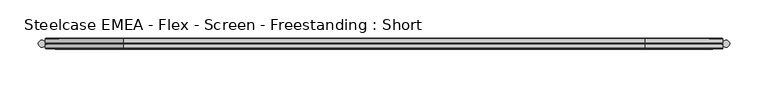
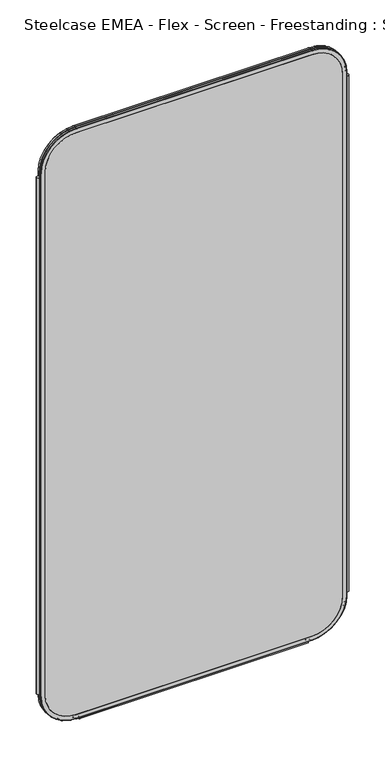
"""IFC4 building model written with IfcOpenShell, lengths in millimetres: furniture geometry, Steelcase EMEA - Flex - Screen - Freestanding : Short."""

from ifc_helpers import new_model, si_unit, point, frame, frame_2d, origin, place, context, project, spatial, polyline, circle_curve, ellipse_curve, trimmed, segment, composite_curve, outline, extrude, source, transform, mapped, element, save
from ifc_brep_helpers import plane_surface, cylinder_surface, revolved_surface, advanced_brep


def steelcase_emea_flex_screen_freestanding_short_9034ac6e(model_context):
    return source(origin(), model_context, "Body", "SolidModel", [
        extrude(outline(composite_curve([segment(trimmed(circle_curve(frame_2d((4.5307839, 0.0)), 4.572), [point((-0.0412161, 0.0))], [point((9.1027839, 0.0))], False, "CARTESIAN"), True, "CONTINUOUS"), segment(trimmed(circle_curve(frame_2d((4.5307839, 0.0)), 4.572), [point((9.1027839, 0.0))], [point((-0.0412161, 0.0))], False, "CARTESIAN"), True, "CONTINUOUS")], self_intersect=False)), frame((0.0, 0.0, 115.57), z_axis=(0.0, 0.0, 1.0), x_axis=(1.0, 0.0, 0.0)), (0.0, 0.0, 1.0), 1568.958),
        extrude(outline(composite_curve([segment(trimmed(circle_curve(frame_2d((895.4692161, 0.0)), 4.572), [point((890.8972161, 0.0))], [point((900.0412161, 0.0))], False, "CARTESIAN"), True, "CONTINUOUS"), segment(trimmed(circle_curve(frame_2d((895.4692161, 0.0)), 4.572), [point((900.0412161, 0.0))], [point((890.8972161, 0.0))], False, "CARTESIAN"), True, "CONTINUOUS")], self_intersect=False)), frame((0.0, 0.0, 115.57), z_axis=(0.0, 0.0, 1.0), x_axis=(1.0, 0.0, 0.0)), (0.0, 0.0, 1.0), 1568.958),
        extrude(outline(composite_curve([segment(trimmed(circle_curve(frame_2d((3.5, 2.4751953)), 2.5), [point((3.5, 4.9751953))], [point((1.4656663, 1.0220998))], False, "CARTESIAN"), True, "CONTINUOUS"), segment(trimmed(circle_curve(frame_2d((0.0, -0.0248047)), 1.8011626), [point((1.4656663, 1.0220998))], [point((-1.4656663, 1.0220998))], True, "CARTESIAN"), True, "CONTINUOUS"), segment(trimmed(circle_curve(frame_2d((-3.5, 2.4751953)), 2.5), [point((-1.4656663, 1.0220998))], [point((-3.5, 4.9751953))], False, "CARTESIAN"), True, "CONTINUOUS"), segment(trimmed(circle_curve(frame_2d((-3.5, 4.4751953)), 0.5), [point((-3.5, 4.9751953))], [point((-3.5, 3.9751953))], False, "CARTESIAN"), True, "CONTINUOUS"), segment(trimmed(circle_curve(frame_2d((-3.5, 2.4751953)), 1.5), [point((-3.5, 3.9751953))], [point((-2.3025096, 1.5718589))], True, "CARTESIAN"), True, "CONTINUOUS"), segment(trimmed(circle_curve(frame_2d((-10.3325937, 7.629417)), 10.0586411), [point((-2.3025096, 1.5718589))], [point((-0.714976, 4.6836248))], True, "CARTESIAN"), True, "CONTINUOUS"), segment(trimmed(circle_curve(frame_2d((0.0, 4.4646339)), 0.7477618), [point((-0.714976, 4.6836248))], [point((0.714976, 4.6836248))], False, "CARTESIAN"), True, "CONTINUOUS"), segment(trimmed(circle_curve(frame_2d((10.3325937, 7.629417)), 10.0586411), [point((0.714976, 4.6836248))], [point((2.3025096, 1.5718589))], True, "CARTESIAN"), True, "CONTINUOUS"), segment(trimmed(circle_curve(frame_2d((3.5, 2.4751953)), 1.5), [point((2.3025096, 1.5718589))], [point((3.5, 3.9751953))], True, "CARTESIAN"), True, "CONTINUOUS"), segment(trimmed(circle_curve(frame_2d((3.5, 4.4751953)), 0.5), [point((3.5, 3.9751953))], [point((3.5, 4.9751953))], False, "CARTESIAN"), True, "CONTINUOUS")], self_intersect=False)), frame((120.0, 0.0, 0.0), z_axis=(1.0, 0.0, 0.0), x_axis=(0.0, 1.0, 0.0)), (0.0, 0.0, 1.0), 660.0),
        advanced_brep(
        [(9.9273521, 0.0, 1698.498), (9.9273521, 0.0, 106.5996464), (110.7653521, 0.0, 5.7616464), (789.2594661, 0.0, 5.7616464), (890.0974661, 0.0, 106.5996464), (890.0974661, 0.0, 1698.498), (789.2594661, 0.0, 1799.336), (110.7653521, 0.0, 1799.336), (789.2594661, 0.0, 17.6996464), (110.7653521, 0.0, 17.6996464), (21.8653521, 0.0, 106.5996464), (21.8653521, 0.0, 1698.498), (110.7653521, 0.0, 1787.398), (789.2594661, 0.0, 1787.398), (878.1594661, 0.0, 1698.498), (878.1594661, 0.0, 106.5996464), (110.7653521, 0.762, 1800.098), (9.1653521, 0.762, 1698.498), (110.7653521, 6.096, 1800.098), (9.1653521, 6.096, 1698.498), (110.7653521, 6.858, 1799.336), (9.9273521, 6.858, 1698.498), (21.8653521, 6.858, 1698.498), (110.7653521, 6.858, 1787.398), (789.2594661, 0.762, 1800.098), (789.2594661, 6.096, 1800.098), (789.2594661, 6.858, 1799.336), (789.2594661, 6.858, 1787.398), (890.8594661, 0.762, 1698.498), (890.8594661, 6.096, 1698.498), (890.0974661, 6.858, 1698.498), (878.1594661, 6.858, 1698.498), (890.8594661, 0.762, 106.5996464), (890.8594661, 6.096, 106.5996464), (890.0974661, 6.858, 106.5996464), (878.1594661, 6.858, 106.5996464), (789.2594661, 0.762, 4.9996464), (789.2594661, 6.096, 4.9996464), (789.2594661, 6.858, 5.7616464), (789.2594661, 6.858, 17.6996464), (110.7653521, 0.762, 4.9996464), (110.7653521, 6.096, 4.9996464), (110.7653521, 6.858, 5.7616464), (110.7653521, 6.858, 17.6996464), (9.1653521, 0.762, 106.5996464), (9.1653521, 6.096, 106.5996464), (9.9273521, 6.858, 106.5996464), (21.8653521, 6.858, 106.5996464)],
        [
            (0, 1),
            (1, 2, circle_curve(frame((110.7653521, 0.0, 106.5996464), z_axis=(0.0, -1.0, 0.0), x_axis=(0.0, 0.0, -1.0)), 100.838)),
            (2, 3),
            (3, 4, circle_curve(frame((789.2594661, 0.0, 106.5996464), z_axis=(0.0, -1.0, 0.0), x_axis=(1.0, 0.0, 0.0)), 100.838)),
            (4, 5),
            (5, 6, circle_curve(frame((789.2594661, 0.0, 1698.498), z_axis=(0.0, -1.0, 0.0), x_axis=(0.0, 0.0, 1.0)), 100.838)),
            (6, 7),
            (7, 0, circle_curve(frame((110.7653521, 0.0, 1698.498), z_axis=(0.0, -1.0, 0.0), x_axis=(-1.0, 0.0, 0.0)), 100.838)),
            (8, 9),
            (9, 10, circle_curve(frame((110.7653521, 0.0, 106.5996464), z_axis=(0.0, 1.0, 0.0), x_axis=(0.0, 0.0, -1.0)), 88.9)),
            (10, 11),
            (11, 12, circle_curve(frame((110.7653521, 0.0, 1698.498), z_axis=(0.0, 1.0, 0.0), x_axis=(-1.0, 0.0, 0.0)), 88.9)),
            (12, 13),
            (13, 14, circle_curve(frame((789.2594661, 0.0, 1698.498), z_axis=(0.0, 1.0, 0.0), x_axis=(0.0, 0.0, 1.0)), 88.9)),
            (14, 15),
            (15, 8, circle_curve(frame((789.2594661, 0.0, 106.5996464), z_axis=(0.0, 1.0, 0.0), x_axis=(1.0, 0.0, 0.0)), 88.9)),
            (16, 17, circle_curve(frame((110.7653521, 0.762, 1698.498), z_axis=(0.0, -1.0, 0.0), x_axis=(-1.0, 0.0, 0.0)), 101.6)),
            (17, 0, circle_curve(frame((9.9273521, 0.762, 1698.498), z_axis=(0.0, 0.0, 1.0), x_axis=(-1.0, 0.0, 0.0)), 0.762)),
            (7, 16, circle_curve(frame((110.7653521, 0.762, 1799.336), z_axis=(-1.0, 0.0, 0.0), x_axis=(0.0, 0.0, 1.0)), 0.762)),
            (18, 19, circle_curve(frame((110.7653521, 6.096, 1698.498), z_axis=(0.0, -1.0, 0.0), x_axis=(-1.0, 0.0, 0.0)), 101.6)),
            (19, 17),
            (16, 18),
            (20, 21, circle_curve(frame((110.7653521, 6.858, 1698.498), z_axis=(0.0, -1.0, 0.0), x_axis=(-1.0, 0.0, 0.0)), 100.838)),
            (21, 19, circle_curve(frame((9.9273521, 6.096, 1698.498), z_axis=(0.0, 0.0, 1.0), x_axis=(-1.0, 0.0, 0.0)), 0.762)),
            (18, 20, circle_curve(frame((110.7653521, 6.096, 1799.336), z_axis=(-1.0, 0.0, 0.0), x_axis=(0.0, 0.0, 1.0)), 0.762)),
            (11, 22),
            (22, 23, circle_curve(frame((110.7653521, 6.858, 1698.498), z_axis=(0.0, 1.0, 0.0), x_axis=(-1.0, 0.0, 0.0)), 88.9)),
            (23, 12),
            (6, 24, circle_curve(frame((789.2594661, 0.762, 1799.336), z_axis=(-1.0, 0.0, 0.0), x_axis=(0.0, 0.0, 1.0)), 0.762)),
            (24, 16),
            (24, 25),
            (25, 18),
            (25, 26, circle_curve(frame((789.2594661, 6.096, 1799.336), z_axis=(-1.0, 0.0, 0.0), x_axis=(0.0, 0.0, 1.0)), 0.762)),
            (26, 20),
            (23, 27),
            (27, 13),
            (28, 24, circle_curve(frame((789.2594661, 0.762, 1698.498), z_axis=(0.0, -1.0, 0.0), x_axis=(0.0, 0.0, 1.0)), 101.6)),
            (5, 28, circle_curve(frame((890.0974661, 0.762, 1698.498), z_axis=(0.0, 0.0, 1.0), x_axis=(1.0, 0.0, 0.0)), 0.762)),
            (29, 25, circle_curve(frame((789.2594661, 6.096, 1698.498), z_axis=(0.0, -1.0, 0.0), x_axis=(0.0, 0.0, 1.0)), 101.6)),
            (28, 29),
            (30, 26, circle_curve(frame((789.2594661, 6.858, 1698.498), z_axis=(0.0, -1.0, 0.0), x_axis=(0.0, 0.0, 1.0)), 100.838)),
            (29, 30, circle_curve(frame((890.0974661, 6.096, 1698.498), z_axis=(0.0, 0.0, 1.0), x_axis=(1.0, 0.0, 0.0)), 0.762)),
            (27, 31, circle_curve(frame((789.2594661, 6.858, 1698.498), z_axis=(0.0, 1.0, 0.0), x_axis=(0.0, 0.0, 1.0)), 88.9)),
            (31, 14),
            (4, 32, circle_curve(frame((890.0974661, 0.762, 106.5996464), z_axis=(0.0, 0.0, 1.0), x_axis=(1.0, 0.0, 0.0)), 0.762)),
            (32, 28),
            (32, 33),
            (33, 29),
            (33, 34, circle_curve(frame((890.0974661, 6.096, 106.5996464), z_axis=(0.0, 0.0, 1.0), x_axis=(1.0, 0.0, 0.0)), 0.762)),
            (34, 30),
            (31, 35),
            (35, 15),
            (36, 32, circle_curve(frame((789.2594661, 0.762, 106.5996464), z_axis=(0.0, -1.0, 0.0), x_axis=(1.0, 0.0, 0.0)), 101.6)),
            (3, 36, circle_curve(frame((789.2594661, 0.762, 5.7616464), z_axis=(1.0, 0.0, 0.0), x_axis=(0.0, 0.0, -1.0)), 0.762)),
            (37, 33, circle_curve(frame((789.2594661, 6.096, 106.5996464), z_axis=(0.0, -1.0, 0.0), x_axis=(1.0, 0.0, 0.0)), 101.6)),
            (36, 37),
            (38, 34, circle_curve(frame((789.2594661, 6.858, 106.5996464), z_axis=(0.0, -1.0, 0.0), x_axis=(1.0, 0.0, 0.0)), 100.838)),
            (37, 38, circle_curve(frame((789.2594661, 6.096, 5.7616464), z_axis=(1.0, 0.0, 0.0), x_axis=(0.0, 0.0, -1.0)), 0.762)),
            (35, 39, circle_curve(frame((789.2594661, 6.858, 106.5996464), z_axis=(0.0, 1.0, 0.0), x_axis=(1.0, 0.0, 0.0)), 88.9)),
            (39, 8),
            (2, 40, circle_curve(frame((110.7653521, 0.762, 5.7616464), z_axis=(1.0, 0.0, 0.0), x_axis=(0.0, 0.0, -1.0)), 0.762)),
            (40, 36),
            (40, 41),
            (41, 37),
            (41, 42, circle_curve(frame((110.7653521, 6.096, 5.7616464), z_axis=(1.0, 0.0, 0.0), x_axis=(0.0, 0.0, -1.0)), 0.762)),
            (42, 38),
            (39, 43),
            (43, 9),
            (44, 40, circle_curve(frame((110.7653521, 0.762, 106.5996464), z_axis=(0.0, -1.0, 0.0), x_axis=(0.0, 0.0, -1.0)), 101.6)),
            (1, 44, circle_curve(frame((9.9273521, 0.762, 106.5996464), z_axis=(0.0, 0.0, -1.0), x_axis=(-1.0, 0.0, 0.0)), 0.762)),
            (45, 41, circle_curve(frame((110.7653521, 6.096, 106.5996464), z_axis=(0.0, -1.0, 0.0), x_axis=(0.0, 0.0, -1.0)), 101.6)),
            (44, 45),
            (46, 42, circle_curve(frame((110.7653521, 6.858, 106.5996464), z_axis=(0.0, -1.0, 0.0), x_axis=(0.0, 0.0, -1.0)), 100.838)),
            (45, 46, circle_curve(frame((9.9273521, 6.096, 106.5996464), z_axis=(0.0, 0.0, -1.0), x_axis=(-1.0, 0.0, 0.0)), 0.762)),
            (43, 47, circle_curve(frame((110.7653521, 6.858, 106.5996464), z_axis=(0.0, 1.0, 0.0), x_axis=(0.0, 0.0, -1.0)), 88.9)),
            (47, 10),
            (17, 44),
            (19, 45),
            (21, 46),
            (22, 47),
        ],
        [
            plane_surface(frame((21.8653521, 0.0, 106.5996464), z_axis=(0.0, -1.0, 0.0), x_axis=(0.0, 0.0, 1.0))),
            revolved_surface(trimmed(ellipse_curve(frame((9.9273521, 0.762, 1698.498), z_axis=(0.0, 0.0, -1.0), x_axis=(-1.0, 0.0, 0.0)), 0.762, 0.762), [point((9.9273521, 0.0, 1698.498))], [point((9.1653521, 0.762, 1698.498))], True, "CARTESIAN"), (110.7653521, 0.0, 1698.498), (0.0, 1.0, 0.0)),
            cylinder_surface(frame((110.7653521, 0.0, 1698.498), z_axis=(0.0, 1.0, 0.0), x_axis=(-1.0, 0.0, 0.0)), 101.6),
            revolved_surface(trimmed(ellipse_curve(frame((9.9273521, 6.096, 1698.498), z_axis=(0.0, 0.0, -1.0), x_axis=(-1.0, 0.0, 0.0)), 0.762, 0.762), [point((9.1653521, 6.096, 1698.498))], [point((9.9273521, 6.858, 1698.498))], True, "CARTESIAN"), (110.7653521, 0.0, 1698.498), (0.0, 1.0, 0.0)),
            revolved_surface(polyline([(21.865352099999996, 6.858, 1698.498), (21.865352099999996, 0.0, 1698.498)]), (110.7653521, 0.0, 1698.498), (0.0, 1.0, 0.0)),
            cylinder_surface(frame((110.7653521, 0.762, 1799.336), z_axis=(-1.0, 0.0, 0.0), x_axis=(0.0, 0.0, 1.0)), 0.762),
            plane_surface(frame((110.7653521, 0.762, 1800.098), z_axis=(0.0, 0.0, 1.0), x_axis=(1.0, 0.0, 0.0))),
            cylinder_surface(frame((110.7653521, 6.096, 1799.336), z_axis=(-1.0, 0.0, 0.0), x_axis=(0.0, 0.0, 1.0)), 0.762),
            plane_surface(frame((110.7653521, 6.858, 1787.398), z_axis=(0.0, 0.0, -1.0), x_axis=(1.0, 0.0, 0.0))),
            revolved_surface(trimmed(ellipse_curve(frame((789.2594661, 0.762, 1799.336), z_axis=(-1.0, 0.0, 0.0), x_axis=(0.0, 0.0, 1.0)), 0.762, 0.762), [point((789.2594661, 0.0, 1799.336))], [point((789.2594661, 0.762, 1800.098))], True, "CARTESIAN"), (789.2594661, 0.0, 1698.498), (0.0, 1.0, 0.0)),
            cylinder_surface(frame((789.2594661, 0.0, 1698.498), z_axis=(0.0, 1.0, 0.0), x_axis=(0.0, 0.0, 1.0)), 101.6),
            revolved_surface(trimmed(ellipse_curve(frame((789.2594661, 6.096, 1799.336), z_axis=(-1.0, 0.0, 0.0), x_axis=(0.0, 0.0, 1.0)), 0.762, 0.762), [point((789.2594661, 6.096, 1800.098))], [point((789.2594661, 6.858, 1799.336))], True, "CARTESIAN"), (789.2594661, 0.0, 1698.498), (0.0, 1.0, 0.0)),
            revolved_surface(polyline([(789.2594661, 6.858, 1787.3980000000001), (789.2594661, 0.0, 1787.3980000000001)]), (789.2594661, 0.0, 1698.498), (0.0, 1.0, 0.0)),
            cylinder_surface(frame((890.0974661, 0.762, 1698.498), z_axis=(0.0, 0.0, 1.0), x_axis=(1.0, 0.0, 0.0)), 0.762),
            plane_surface(frame((890.8594661, 0.762, 1698.498), z_axis=(1.0, 0.0, 0.0), x_axis=(0.0, 0.0, -1.0))),
            cylinder_surface(frame((890.0974661, 6.096, 1698.498), z_axis=(0.0, 0.0, 1.0), x_axis=(1.0, 0.0, 0.0)), 0.762),
            plane_surface(frame((878.1594661, 6.858, 1698.498), z_axis=(-1.0, 0.0, 0.0), x_axis=(0.0, 0.0, -1.0))),
            revolved_surface(trimmed(ellipse_curve(frame((890.0974661, 0.762, 106.5996464), z_axis=(0.0, 0.0, 1.0), x_axis=(1.0, 0.0, 0.0)), 0.762, 0.762), [point((890.0974661, 0.0, 106.5996464))], [point((890.8594661, 0.762, 106.5996464))], True, "CARTESIAN"), (789.2594661, 0.0, 106.5996464), (0.0, 1.0, 0.0)),
            cylinder_surface(frame((789.2594661, 0.0, 106.5996464), z_axis=(0.0, 1.0, 0.0), x_axis=(1.0, 0.0, 0.0)), 101.6),
            revolved_surface(trimmed(ellipse_curve(frame((890.0974661, 6.096, 106.5996464), z_axis=(0.0, 0.0, 1.0), x_axis=(1.0, 0.0, 0.0)), 0.762, 0.762), [point((890.8594661, 6.096, 106.5996464))], [point((890.0974661, 6.858, 106.5996464))], True, "CARTESIAN"), (789.2594661, 0.0, 106.5996464), (0.0, 1.0, 0.0)),
            revolved_surface(polyline([(878.1594661, 6.858, 106.5996464), (878.1594661, 0.0, 106.5996464)]), (789.2594661, 0.0, 106.5996464), (0.0, 1.0, 0.0)),
            cylinder_surface(frame((789.2594661, 0.762, 5.7616464), z_axis=(1.0, 0.0, 0.0), x_axis=(0.0, 0.0, -1.0)), 0.762),
            plane_surface(frame((789.2594661, 0.762, 4.9996464), z_axis=(0.0, 0.0, -1.0), x_axis=(-1.0, 0.0, 0.0))),
            cylinder_surface(frame((789.2594661, 6.096, 5.7616464), z_axis=(1.0, 0.0, 0.0), x_axis=(0.0, 0.0, -1.0)), 0.762),
            plane_surface(frame((789.2594661, 6.858, 17.6996464), z_axis=(0.0, 0.0, 1.0), x_axis=(-1.0, 0.0, 0.0))),
            revolved_surface(trimmed(ellipse_curve(frame((110.7653521, 0.762, 5.7616464), z_axis=(1.0, 0.0, 0.0), x_axis=(0.0, 0.0, -1.0)), 0.762, 0.762), [point((110.7653521, 0.0, 5.7616464))], [point((110.7653521, 0.762, 4.9996464))], True, "CARTESIAN"), (110.7653521, 0.0, 106.5996464), (0.0, 1.0, 0.0)),
            cylinder_surface(frame((110.7653521, 0.0, 106.5996464), z_axis=(0.0, 1.0, 0.0), x_axis=(0.0, 0.0, -1.0)), 101.6),
            revolved_surface(trimmed(ellipse_curve(frame((110.7653521, 6.096, 5.7616464), z_axis=(1.0, 0.0, 0.0), x_axis=(0.0, 0.0, -1.0)), 0.762, 0.762), [point((110.7653521, 6.096, 4.9996464))], [point((110.7653521, 6.858, 5.7616464))], True, "CARTESIAN"), (110.7653521, 0.0, 106.5996464), (0.0, 1.0, 0.0)),
            revolved_surface(polyline([(110.7653521, 6.858, 17.699646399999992), (110.7653521, 0.0, 17.699646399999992)]), (110.7653521, 0.0, 106.5996464), (0.0, 1.0, 0.0)),
            cylinder_surface(frame((9.9273521, 0.762, 106.5996464), z_axis=(0.0, 0.0, -1.0), x_axis=(-1.0, 0.0, 0.0)), 0.762),
            plane_surface(frame((9.1653521, 0.762, 106.5996464), z_axis=(-1.0, 0.0, 0.0), x_axis=(0.0, 0.0, 1.0))),
            cylinder_surface(frame((9.9273521, 6.096, 106.5996464), z_axis=(0.0, 0.0, -1.0), x_axis=(-1.0, 0.0, 0.0)), 0.762),
            plane_surface(frame((9.9273521, 6.858, 106.5996464), z_axis=(0.0, 1.0, 0.0), x_axis=(0.0, 0.0, 1.0))),
            plane_surface(frame((21.8653521, 6.858, 106.5996464), z_axis=(1.0, 0.0, 0.0), x_axis=(0.0, 0.0, 1.0))),
        ],
        [
            (0, [[1, 2, 3, 4, 5, 6, 7, 8], [9, 10, 11, 12, 13, 14, 15, 16]]),
            (1, [[17, 18, -8, 19]]),
            (2, [[20, 21, -17, 22]]),
            (3, [[23, 24, -20, 25]]),
            (4, [[-12, 26, 27, 28]]),
            (5, [[-19, -7, 29, 30]]),
            (6, [[-22, -30, 31, 32]]),
            (7, [[-25, -32, 33, 34]]),
            (8, [[-28, 35, 36, -13]]),
            (9, [[37, -29, -6, 38]]),
            (10, [[39, -31, -37, 40]]),
            (11, [[41, -33, -39, 42]]),
            (12, [[-14, -36, 43, 44]]),
            (13, [[-38, -5, 45, 46]]),
            (14, [[-40, -46, 47, 48]]),
            (15, [[-42, -48, 49, 50]]),
            (16, [[-44, 51, 52, -15]]),
            (17, [[53, -45, -4, 54]]),
            (18, [[55, -47, -53, 56]]),
            (19, [[57, -49, -55, 58]]),
            (20, [[-16, -52, 59, 60]]),
            (21, [[-54, -3, 61, 62]]),
            (22, [[-56, -62, 63, 64]]),
            (23, [[-58, -64, 65, 66]]),
            (24, [[-60, 67, 68, -9]]),
            (25, [[69, -61, -2, 70]]),
            (26, [[71, -63, -69, 72]]),
            (27, [[73, -65, -71, 74]]),
            (28, [[-10, -68, 75, 76]]),
            (29, [[-70, -1, -18, 77]]),
            (30, [[-72, -77, -21, 78]]),
            (31, [[-74, -78, -24, 79]]),
            (32, [[-66, -73, -79, -23, -34, -41, -50, -57], [80, -75, -67, -59, -51, -43, -35, -27]]),
            (33, [[-76, -80, -26, -11]]),
        ],
    ),
        extrude(outline(composite_curve([segment(polyline([(1787.398, 789.2594661), (1787.398, 110.7653521)]), True, "CONTINUOUS"), segment(trimmed(circle_curve(frame_2d((1698.498, 110.7653521)), 88.9), [point((1787.398, 110.7653521))], [point((1698.498, 21.8653521))], False, "CARTESIAN"), True, "CONTINUOUS"), segment(polyline([(1698.498, 21.8653521), (106.5996464, 21.8653521)]), True, "CONTINUOUS"), segment(trimmed(circle_curve(frame_2d((106.5996464, 110.7653521)), 88.9), [point((106.5996464, 21.8653521))], [point((17.6996464, 110.7653521))], False, "CARTESIAN"), True, "CONTINUOUS"), segment(polyline([(17.6996464, 110.7653521), (17.6996464, 789.2594661)]), True, "CONTINUOUS"), segment(trimmed(circle_curve(frame_2d((106.5996464, 789.2594661)), 88.9), [point((17.6996464, 789.2594661))], [point((106.5996464, 878.1594661))], False, "CARTESIAN"), True, "CONTINUOUS"), segment(polyline([(106.5996464, 878.1594661), (1698.498, 878.1594661)]), True, "CONTINUOUS"), segment(trimmed(circle_curve(frame_2d((1698.498, 789.2594661)), 88.9), [point((1698.498, 878.1594661))], [point((1787.398, 789.2594661))], False, "CARTESIAN"), True, "CONTINUOUS")], self_intersect=False)), frame((0.0, 0.0, 0.0), z_axis=(0.0, 1.0, 0.0), x_axis=(0.0, 0.0, 1.0)), (0.0, 0.0, 1.0), 6.858),
        advanced_brep(
        [(110.7653521, -6.858, 1787.398), (21.8653521, -6.858, 1698.498), (21.8653521, 0.0, 1698.498), (110.7653521, 0.0, 1787.398), (110.7653521, -6.096, 1800.098), (9.1653521, -6.096, 1698.498), (9.9273521, -6.858, 1698.498), (110.7653521, -6.858, 1799.336), (110.7653521, -0.762, 1800.098), (9.1653521, -0.762, 1698.498), (110.7653521, 0.0, 1799.336), (9.9273521, 0.0, 1698.498), (789.2594661, 0.0, 1787.398), (789.2594661, -6.858, 1787.398), (789.2594661, -6.858, 1799.336), (789.2594661, -6.096, 1800.098), (789.2594661, -0.762, 1800.098), (789.2594661, 0.0, 1799.336), (878.1594661, -6.858, 1698.498), (878.1594661, 0.0, 1698.498), (890.8594661, -6.096, 1698.498), (890.0974661, -6.858, 1698.498), (890.8594661, -0.762, 1698.498), (890.0974661, 0.0, 1698.498), (878.1594661, 0.0, 106.5996464), (878.1594661, -6.858, 106.5996464), (890.0974661, -6.858, 106.5996464), (890.8594661, -6.096, 106.5996464), (890.8594661, -0.762, 106.5996464), (890.0974661, 0.0, 106.5996464), (789.2594661, -6.858, 17.6996464), (789.2594661, 0.0, 17.6996464), (789.2594661, -6.096, 4.9996464), (789.2594661, -6.858, 5.7616464), (789.2594661, -0.762, 4.9996464), (789.2594661, 0.0, 5.7616464), (110.7653521, 0.0, 17.6996464), (110.7653521, -6.858, 17.6996464), (110.7653521, -6.858, 5.7616464), (110.7653521, -6.096, 4.9996464), (110.7653521, -0.762, 4.9996464), (110.7653521, 0.0, 5.7616464), (21.8653521, -6.858, 106.5996464), (21.8653521, 0.0, 106.5996464), (9.1653521, -6.096, 106.5996464), (9.9273521, -6.858, 106.5996464), (9.1653521, -0.762, 106.5996464), (9.9273521, 0.0, 106.5996464)],
        [
            (0, 1, circle_curve(frame((110.7653521, -6.858, 1698.498), z_axis=(0.0, -1.0, 0.0), x_axis=(-1.0, 0.0, 0.0)), 88.9)),
            (1, 2),
            (2, 3, circle_curve(frame((110.7653521, 0.0, 1698.498), z_axis=(0.0, 1.0, 0.0), x_axis=(-1.0, 0.0, 0.0)), 88.9)),
            (3, 0),
            (4, 5, circle_curve(frame((110.7653521, -6.096, 1698.498), z_axis=(0.0, -1.0, 0.0), x_axis=(-1.0, 0.0, 0.0)), 101.6)),
            (5, 6, circle_curve(frame((9.9273521, -6.096, 1698.498), z_axis=(0.0, 0.0, 1.0), x_axis=(-1.0, 0.0, 0.0)), 0.762)),
            (6, 7, circle_curve(frame((110.7653521, -6.858, 1698.498), z_axis=(0.0, 1.0, 0.0), x_axis=(-1.0, 0.0, 0.0)), 100.838)),
            (7, 4, circle_curve(frame((110.7653521, -6.096, 1799.336), z_axis=(-1.0, 0.0, 0.0), x_axis=(0.0, 0.0, 1.0)), 0.762)),
            (8, 9, circle_curve(frame((110.7653521, -0.762, 1698.498), z_axis=(0.0, -1.0, 0.0), x_axis=(-1.0, 0.0, 0.0)), 101.6)),
            (9, 5),
            (4, 8),
            (10, 11, circle_curve(frame((110.7653521, 0.0, 1698.498), z_axis=(0.0, -1.0, 0.0), x_axis=(-1.0, 0.0, 0.0)), 100.838)),
            (11, 9, circle_curve(frame((9.9273521, -0.762, 1698.498), z_axis=(0.0, 0.0, 1.0), x_axis=(-1.0, 0.0, 0.0)), 0.762)),
            (8, 10, circle_curve(frame((110.7653521, -0.762, 1799.336), z_axis=(-1.0, 0.0, 0.0), x_axis=(0.0, 0.0, 1.0)), 0.762)),
            (3, 12),
            (12, 13),
            (13, 0),
            (7, 14),
            (14, 15, circle_curve(frame((789.2594661, -6.096, 1799.336), z_axis=(-1.0, 0.0, 0.0), x_axis=(0.0, 0.0, 1.0)), 0.762)),
            (15, 4),
            (15, 16),
            (16, 8),
            (16, 17, circle_curve(frame((789.2594661, -0.762, 1799.336), z_axis=(-1.0, 0.0, 0.0), x_axis=(0.0, 0.0, 1.0)), 0.762)),
            (17, 10),
            (18, 13, circle_curve(frame((789.2594661, -6.858, 1698.498), z_axis=(0.0, -1.0, 0.0), x_axis=(0.0, 0.0, 1.0)), 88.9)),
            (12, 19, circle_curve(frame((789.2594661, 0.0, 1698.498), z_axis=(0.0, 1.0, 0.0), x_axis=(0.0, 0.0, 1.0)), 88.9)),
            (19, 18),
            (20, 15, circle_curve(frame((789.2594661, -6.096, 1698.498), z_axis=(0.0, -1.0, 0.0), x_axis=(0.0, 0.0, 1.0)), 101.6)),
            (14, 21, circle_curve(frame((789.2594661, -6.858, 1698.498), z_axis=(0.0, 1.0, 0.0), x_axis=(0.0, 0.0, 1.0)), 100.838)),
            (21, 20, circle_curve(frame((890.0974661, -6.096, 1698.498), z_axis=(0.0, 0.0, 1.0), x_axis=(1.0, 0.0, 0.0)), 0.762)),
            (22, 16, circle_curve(frame((789.2594661, -0.762, 1698.498), z_axis=(0.0, -1.0, 0.0), x_axis=(0.0, 0.0, 1.0)), 101.6)),
            (20, 22),
            (23, 17, circle_curve(frame((789.2594661, 0.0, 1698.498), z_axis=(0.0, -1.0, 0.0), x_axis=(0.0, 0.0, 1.0)), 100.838)),
            (22, 23, circle_curve(frame((890.0974661, -0.762, 1698.498), z_axis=(0.0, 0.0, 1.0), x_axis=(1.0, 0.0, 0.0)), 0.762)),
            (19, 24),
            (24, 25),
            (25, 18),
            (21, 26),
            (26, 27, circle_curve(frame((890.0974661, -6.096, 106.5996464), z_axis=(0.0, 0.0, 1.0), x_axis=(1.0, 0.0, 0.0)), 0.762)),
            (27, 20),
            (27, 28),
            (28, 22),
            (28, 29, circle_curve(frame((890.0974661, -0.762, 106.5996464), z_axis=(0.0, 0.0, 1.0), x_axis=(1.0, 0.0, 0.0)), 0.762)),
            (29, 23),
            (30, 25, circle_curve(frame((789.2594661, -6.858, 106.5996464), z_axis=(0.0, -1.0, 0.0), x_axis=(1.0, 0.0, 0.0)), 88.9)),
            (24, 31, circle_curve(frame((789.2594661, 0.0, 106.5996464), z_axis=(0.0, 1.0, 0.0), x_axis=(1.0, 0.0, 0.0)), 88.9)),
            (31, 30),
            (32, 27, circle_curve(frame((789.2594661, -6.096, 106.5996464), z_axis=(0.0, -1.0, 0.0), x_axis=(1.0, 0.0, 0.0)), 101.6)),
            (26, 33, circle_curve(frame((789.2594661, -6.858, 106.5996464), z_axis=(0.0, 1.0, 0.0), x_axis=(1.0, 0.0, 0.0)), 100.838)),
            (33, 32, circle_curve(frame((789.2594661, -6.096, 5.7616464), z_axis=(1.0, 0.0, 0.0), x_axis=(0.0, 0.0, -1.0)), 0.762)),
            (34, 28, circle_curve(frame((789.2594661, -0.762, 106.5996464), z_axis=(0.0, -1.0, 0.0), x_axis=(1.0, 0.0, 0.0)), 101.6)),
            (32, 34),
            (35, 29, circle_curve(frame((789.2594661, 0.0, 106.5996464), z_axis=(0.0, -1.0, 0.0), x_axis=(1.0, 0.0, 0.0)), 100.838)),
            (34, 35, circle_curve(frame((789.2594661, -0.762, 5.7616464), z_axis=(1.0, 0.0, 0.0), x_axis=(0.0, 0.0, -1.0)), 0.762)),
            (31, 36),
            (36, 37),
            (37, 30),
            (33, 38),
            (38, 39, circle_curve(frame((110.7653521, -6.096, 5.7616464), z_axis=(1.0, 0.0, 0.0), x_axis=(0.0, 0.0, -1.0)), 0.762)),
            (39, 32),
            (39, 40),
            (40, 34),
            (40, 41, circle_curve(frame((110.7653521, -0.762, 5.7616464), z_axis=(1.0, 0.0, 0.0), x_axis=(0.0, 0.0, -1.0)), 0.762)),
            (41, 35),
            (42, 37, circle_curve(frame((110.7653521, -6.858, 106.5996464), z_axis=(0.0, -1.0, 0.0), x_axis=(0.0, 0.0, -1.0)), 88.9)),
            (36, 43, circle_curve(frame((110.7653521, 0.0, 106.5996464), z_axis=(0.0, 1.0, 0.0), x_axis=(0.0, 0.0, -1.0)), 88.9)),
            (43, 42),
            (44, 39, circle_curve(frame((110.7653521, -6.096, 106.5996464), z_axis=(0.0, -1.0, 0.0), x_axis=(0.0, 0.0, -1.0)), 101.6)),
            (38, 45, circle_curve(frame((110.7653521, -6.858, 106.5996464), z_axis=(0.0, 1.0, 0.0), x_axis=(0.0, 0.0, -1.0)), 100.838)),
            (45, 44, circle_curve(frame((9.9273521, -6.096, 106.5996464), z_axis=(0.0, 0.0, -1.0), x_axis=(-1.0, 0.0, 0.0)), 0.762)),
            (46, 40, circle_curve(frame((110.7653521, -0.762, 106.5996464), z_axis=(0.0, -1.0, 0.0), x_axis=(0.0, 0.0, -1.0)), 101.6)),
            (44, 46),
            (47, 41, circle_curve(frame((110.7653521, 0.0, 106.5996464), z_axis=(0.0, -1.0, 0.0), x_axis=(0.0, 0.0, -1.0)), 100.838)),
            (46, 47, circle_curve(frame((9.9273521, -0.762, 106.5996464), z_axis=(0.0, 0.0, -1.0), x_axis=(-1.0, 0.0, 0.0)), 0.762)),
            (43, 2),
            (1, 42),
            (6, 45),
            (5, 44),
            (9, 46),
            (11, 47),
        ],
        [
            revolved_surface(polyline([(21.865352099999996, 0.0, 1698.498), (21.865352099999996, -6.858, 1698.498)]), (110.7653521, 0.0, 1698.498), (0.0, 1.0, 0.0)),
            revolved_surface(trimmed(ellipse_curve(frame((9.9273521, -6.096, 1698.498), z_axis=(0.0, 0.0, -1.0), x_axis=(-1.0, 0.0, 0.0)), 0.762, 0.762), [point((9.9273521, -6.858, 1698.498))], [point((9.1653521, -6.096, 1698.498))], True, "CARTESIAN"), (110.7653521, 0.0, 1698.498), (0.0, 1.0, 0.0)),
            cylinder_surface(frame((110.7653521, 0.0, 1698.498), z_axis=(0.0, 1.0, 0.0), x_axis=(-1.0, 0.0, 0.0)), 101.6),
            revolved_surface(trimmed(ellipse_curve(frame((9.9273521, -0.762, 1698.498), z_axis=(0.0, 0.0, -1.0), x_axis=(-1.0, 0.0, 0.0)), 0.762, 0.762), [point((9.1653521, -0.762, 1698.498))], [point((9.9273521, 0.0, 1698.498))], True, "CARTESIAN"), (110.7653521, 0.0, 1698.498), (0.0, 1.0, 0.0)),
            plane_surface(frame((110.7653521, 0.0, 1787.398), z_axis=(0.0, 0.0, -1.0), x_axis=(1.0, 0.0, 0.0))),
            cylinder_surface(frame((110.7653521, -6.096, 1799.336), z_axis=(-1.0, 0.0, 0.0), x_axis=(0.0, 0.0, 1.0)), 0.762),
            plane_surface(frame((110.7653521, -6.096, 1800.098), z_axis=(0.0, 0.0, 1.0), x_axis=(1.0, 0.0, 0.0))),
            cylinder_surface(frame((110.7653521, -0.762, 1799.336), z_axis=(-1.0, 0.0, 0.0), x_axis=(0.0, 0.0, 1.0)), 0.762),
            revolved_surface(polyline([(789.2594661, 0.0, 1787.3980000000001), (789.2594661, -6.858, 1787.3980000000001)]), (789.2594661, 0.0, 1698.498), (0.0, 1.0, 0.0)),
            revolved_surface(trimmed(ellipse_curve(frame((789.2594661, -6.096, 1799.336), z_axis=(-1.0, 0.0, 0.0), x_axis=(0.0, 0.0, 1.0)), 0.762, 0.762), [point((789.2594661, -6.858, 1799.336))], [point((789.2594661, -6.096, 1800.098))], True, "CARTESIAN"), (789.2594661, 0.0, 1698.498), (0.0, 1.0, 0.0)),
            cylinder_surface(frame((789.2594661, 0.0, 1698.498), z_axis=(0.0, 1.0, 0.0), x_axis=(0.0, 0.0, 1.0)), 101.6),
            revolved_surface(trimmed(ellipse_curve(frame((789.2594661, -0.762, 1799.336), z_axis=(-1.0, 0.0, 0.0), x_axis=(0.0, 0.0, 1.0)), 0.762, 0.762), [point((789.2594661, -0.762, 1800.098))], [point((789.2594661, 0.0, 1799.336))], True, "CARTESIAN"), (789.2594661, 0.0, 1698.498), (0.0, 1.0, 0.0)),
            plane_surface(frame((878.1594661, 0.0, 1698.498), z_axis=(-1.0, 0.0, 0.0), x_axis=(0.0, 0.0, -1.0))),
            cylinder_surface(frame((890.0974661, -6.096, 1698.498), z_axis=(0.0, 0.0, 1.0), x_axis=(1.0, 0.0, 0.0)), 0.762),
            plane_surface(frame((890.8594661, -6.096, 1698.498), z_axis=(1.0, 0.0, 0.0), x_axis=(0.0, 0.0, -1.0))),
            cylinder_surface(frame((890.0974661, -0.762, 1698.498), z_axis=(0.0, 0.0, 1.0), x_axis=(1.0, 0.0, 0.0)), 0.762),
            revolved_surface(polyline([(878.1594661, 0.0, 106.5996464), (878.1594661, -6.858, 106.5996464)]), (789.2594661, 0.0, 106.5996464), (0.0, 1.0, 0.0)),
            revolved_surface(trimmed(ellipse_curve(frame((890.0974661, -6.096, 106.5996464), z_axis=(0.0, 0.0, 1.0), x_axis=(1.0, 0.0, 0.0)), 0.762, 0.762), [point((890.0974661, -6.858, 106.5996464))], [point((890.8594661, -6.096, 106.5996464))], True, "CARTESIAN"), (789.2594661, 0.0, 106.5996464), (0.0, 1.0, 0.0)),
            cylinder_surface(frame((789.2594661, 0.0, 106.5996464), z_axis=(0.0, 1.0, 0.0), x_axis=(1.0, 0.0, 0.0)), 101.6),
            revolved_surface(trimmed(ellipse_curve(frame((890.0974661, -0.762, 106.5996464), z_axis=(0.0, 0.0, 1.0), x_axis=(1.0, 0.0, 0.0)), 0.762, 0.762), [point((890.8594661, -0.762, 106.5996464))], [point((890.0974661, 0.0, 106.5996464))], True, "CARTESIAN"), (789.2594661, 0.0, 106.5996464), (0.0, 1.0, 0.0)),
            plane_surface(frame((789.2594661, 0.0, 17.6996464), z_axis=(0.0, 0.0, 1.0), x_axis=(-1.0, 0.0, 0.0))),
            cylinder_surface(frame((789.2594661, -6.096, 5.7616464), z_axis=(1.0, 0.0, 0.0), x_axis=(0.0, 0.0, -1.0)), 0.762),
            plane_surface(frame((789.2594661, -6.096, 4.9996464), z_axis=(0.0, 0.0, -1.0), x_axis=(-1.0, 0.0, 0.0))),
            cylinder_surface(frame((789.2594661, -0.762, 5.7616464), z_axis=(1.0, 0.0, 0.0), x_axis=(0.0, 0.0, -1.0)), 0.762),
            revolved_surface(polyline([(110.7653521, 0.0, 17.699646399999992), (110.7653521, -6.858, 17.699646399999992)]), (110.7653521, 0.0, 106.5996464), (0.0, 1.0, 0.0)),
            revolved_surface(trimmed(ellipse_curve(frame((110.7653521, -6.096, 5.7616464), z_axis=(1.0, 0.0, 0.0), x_axis=(0.0, 0.0, -1.0)), 0.762, 0.762), [point((110.7653521, -6.858, 5.7616464))], [point((110.7653521, -6.096, 4.9996464))], True, "CARTESIAN"), (110.7653521, 0.0, 106.5996464), (0.0, 1.0, 0.0)),
            cylinder_surface(frame((110.7653521, 0.0, 106.5996464), z_axis=(0.0, 1.0, 0.0), x_axis=(0.0, 0.0, -1.0)), 101.6),
            revolved_surface(trimmed(ellipse_curve(frame((110.7653521, -0.762, 5.7616464), z_axis=(1.0, 0.0, 0.0), x_axis=(0.0, 0.0, -1.0)), 0.762, 0.762), [point((110.7653521, -0.762, 4.9996464))], [point((110.7653521, 0.0, 5.7616464))], True, "CARTESIAN"), (110.7653521, 0.0, 106.5996464), (0.0, 1.0, 0.0)),
            plane_surface(frame((21.8653521, 0.0, 106.5996464), z_axis=(1.0, 0.0, 0.0), x_axis=(0.0, 0.0, 1.0))),
            plane_surface(frame((21.8653521, -6.858, 106.5996464), z_axis=(0.0, -1.0, 0.0), x_axis=(0.0, 0.0, 1.0))),
            cylinder_surface(frame((9.9273521, -6.096, 106.5996464), z_axis=(0.0, 0.0, -1.0), x_axis=(-1.0, 0.0, 0.0)), 0.762),
            plane_surface(frame((9.1653521, -6.096, 106.5996464), z_axis=(-1.0, 0.0, 0.0), x_axis=(0.0, 0.0, 1.0))),
            cylinder_surface(frame((9.9273521, -0.762, 106.5996464), z_axis=(0.0, 0.0, -1.0), x_axis=(-1.0, 0.0, 0.0)), 0.762),
            plane_surface(frame((9.9273521, 0.0, 106.5996464), z_axis=(0.0, 1.0, 0.0), x_axis=(0.0, 0.0, 1.0))),
        ],
        [
            (0, [[1, 2, 3, 4]]),
            (1, [[5, 6, 7, 8]]),
            (2, [[9, 10, -5, 11]]),
            (3, [[12, 13, -9, 14]]),
            (4, [[-4, 15, 16, 17]]),
            (5, [[-8, 18, 19, 20]]),
            (6, [[-11, -20, 21, 22]]),
            (7, [[-14, -22, 23, 24]]),
            (8, [[25, -16, 26, 27]]),
            (9, [[28, -19, 29, 30]]),
            (10, [[31, -21, -28, 32]]),
            (11, [[33, -23, -31, 34]]),
            (12, [[-27, 35, 36, 37]]),
            (13, [[-30, 38, 39, 40]]),
            (14, [[-32, -40, 41, 42]]),
            (15, [[-34, -42, 43, 44]]),
            (16, [[45, -36, 46, 47]]),
            (17, [[48, -39, 49, 50]]),
            (18, [[51, -41, -48, 52]]),
            (19, [[53, -43, -51, 54]]),
            (20, [[-47, 55, 56, 57]]),
            (21, [[-50, 58, 59, 60]]),
            (22, [[-52, -60, 61, 62]]),
            (23, [[-54, -62, 63, 64]]),
            (24, [[65, -56, 66, 67]]),
            (25, [[68, -59, 69, 70]]),
            (26, [[71, -61, -68, 72]]),
            (27, [[73, -63, -71, 74]]),
            (28, [[-67, 75, -2, 76]]),
            (29, [[77, -69, -58, -49, -38, -29, -18, -7], [-57, -65, -76, -1, -17, -25, -37, -45]]),
            (30, [[-70, -77, -6, 78]]),
            (31, [[-72, -78, -10, 79]]),
            (32, [[-74, -79, -13, 80]]),
            (33, [[-64, -73, -80, -12, -24, -33, -44, -53], [-75, -66, -55, -46, -35, -26, -15, -3]]),
        ],
    ),
        extrude(outline(composite_curve([segment(polyline([(1787.398, 789.2594661), (1787.398, 110.7653521)]), True, "CONTINUOUS"), segment(trimmed(circle_curve(frame_2d((1698.498, 110.7653521)), 88.9), [point((1787.398, 110.7653521))], [point((1698.498, 21.8653521))], False, "CARTESIAN"), True, "CONTINUOUS"), segment(polyline([(1698.498, 21.8653521), (106.5996464, 21.8653521)]), True, "CONTINUOUS"), segment(trimmed(circle_curve(frame_2d((106.5996464, 110.7653521)), 88.9), [point((106.5996464, 21.8653521))], [point((17.6996464, 110.7653521))], False, "CARTESIAN"), True, "CONTINUOUS"), segment(polyline([(17.6996464, 110.7653521), (17.6996464, 789.2594661)]), True, "CONTINUOUS"), segment(trimmed(circle_curve(frame_2d((106.5996464, 789.2594661)), 88.9), [point((17.6996464, 789.2594661))], [point((106.5996464, 878.1594661))], False, "CARTESIAN"), True, "CONTINUOUS"), segment(polyline([(106.5996464, 878.1594661), (1698.498, 878.1594661)]), True, "CONTINUOUS"), segment(trimmed(circle_curve(frame_2d((1698.498, 789.2594661)), 88.9), [point((1698.498, 878.1594661))], [point((1787.398, 789.2594661))], False, "CARTESIAN"), True, "CONTINUOUS")], self_intersect=False)), frame((0.0, -6.858, 0.0), z_axis=(0.0, 1.0, 0.0), x_axis=(0.0, 0.0, 1.0)), (0.0, 0.0, 1.0), 6.858),
    ])


if __name__ == "__main__":
    model = new_model("IFC4")
    model_context = context("Model", 3, world=origin())
    ifc_project = project(units=[si_unit("LENGTHUNIT", "METRE", prefix="MILLI")], contexts=[model_context])
    site = spatial("IfcSite", under=ifc_project)
    building = spatial("IfcBuilding", under=site)
    placement = place(None, origin())
    steelcase_emea_flex_screen_freestanding_short_shape = steelcase_emea_flex_screen_freestanding_short_9034ac6e(model_context)
    element("IfcFurniture", 1, ObjectType="Steelcase EMEA - Flex - Screen - Freestanding : Short", at=placement, inside=building, context=model_context, shape_type="MappedRepresentation", body=[
        mapped(steelcase_emea_flex_screen_freestanding_short_shape, transform((0.0, 0.0, 0.0), x_axis=(1.0, 0.0, 0.0), y_axis=(0.0, 1.0, 0.0), z_axis=(0.0, 0.0, 1.0))),
    ])
    save(model, "model.ifc")
